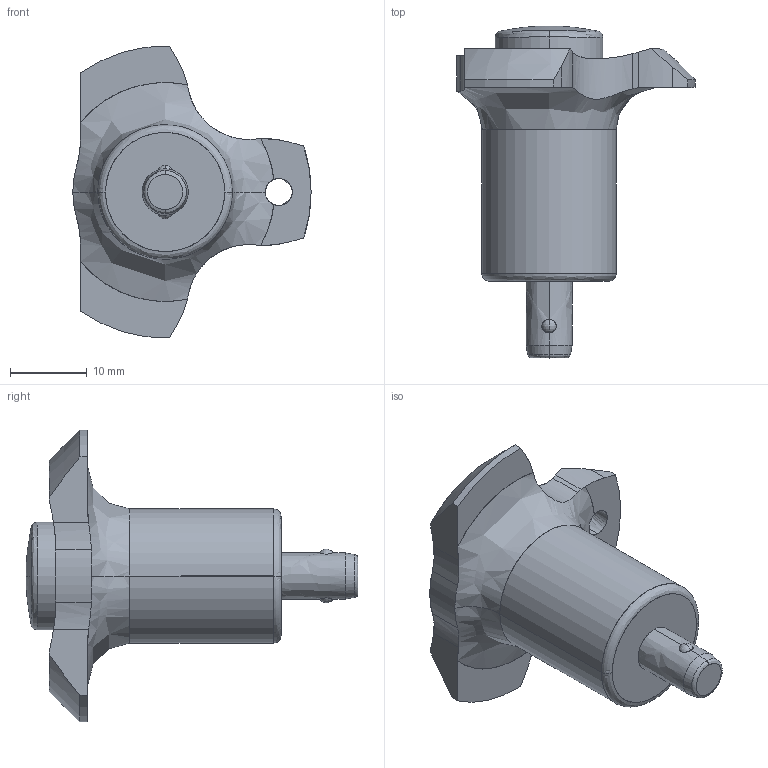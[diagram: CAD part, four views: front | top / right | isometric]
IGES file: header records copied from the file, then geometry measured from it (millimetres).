
Start section: SolidWorks IGES file using analytic representation for surfaces
Global section: file name: C:\Users\ianosborn\Desktop\33180_v2\33180_v2_20250106_IGES\33180.W0010.igs; native system: SolidWorks 2019; preprocessor: SolidWorks 2019; author: IanOsborn; date: 250106.111433; units: millimetre
Bounding box: 31 x 43.2 x 37.98 mm (x, y, z)
Surface area: 5872.2 mm2 (no closed solid volume)
Topology: 0 solids, 0 shells, 68 faces, 939 edges, 938 vertices
Faces by surface type: revolution 40, bspline 28
